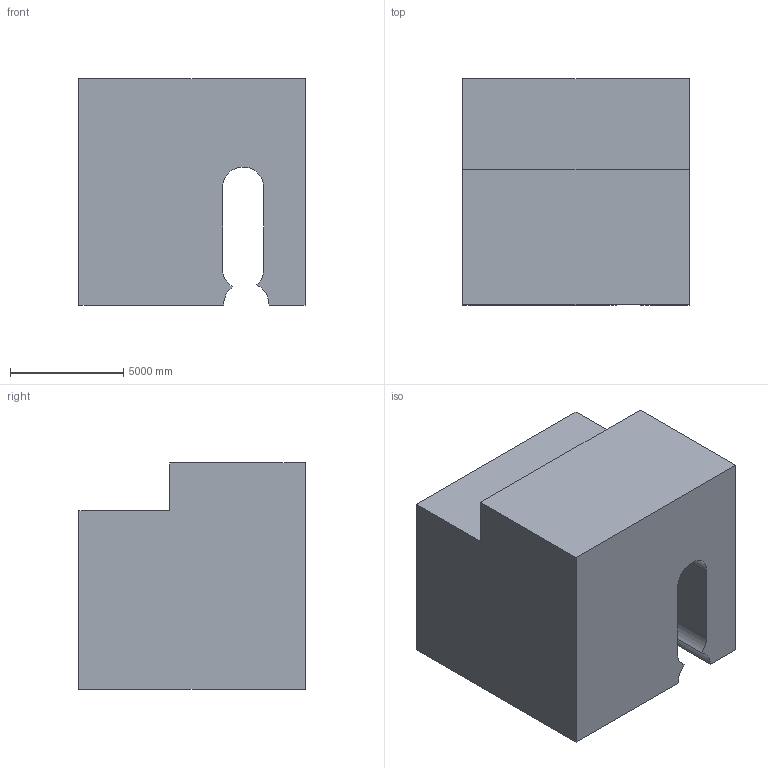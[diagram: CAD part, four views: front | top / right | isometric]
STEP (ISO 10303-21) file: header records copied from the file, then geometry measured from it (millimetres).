
FILE_DESCRIPTION (( 'STEP AP203' ), '1' );
FILE_NAME ('229.STEP', '2022-07-28T13:58:38', ( 'user' ), ( '' ), 'SwSTEP 2.0', 'SolidWorks 2021', '' );
FILE_SCHEMA (( 'CONFIG_CONTROL_DESIGN' ));
Length unit declared in the file: centimetre
Products named in the file (1): 229
Bounding box: 10000 x 10000 x 10000 mm (x, y, z)
Volume: 809418400365.8 mm3; surface area: 679915649.5 mm2
Topology: 1 solids, 1 shells, 16 faces, 42 edges, 28 vertices
Faces by surface type: plane 11, cylinder 5
Entity records: 573 total; most frequent: CARTESIAN_POINT 87, DIRECTION 86, ORIENTED_EDGE 84, EDGE_CURVE 42, VECTOR 32, LINE 32, VERTEX_POINT 28, AXIS2_PLACEMENT_3D 27
